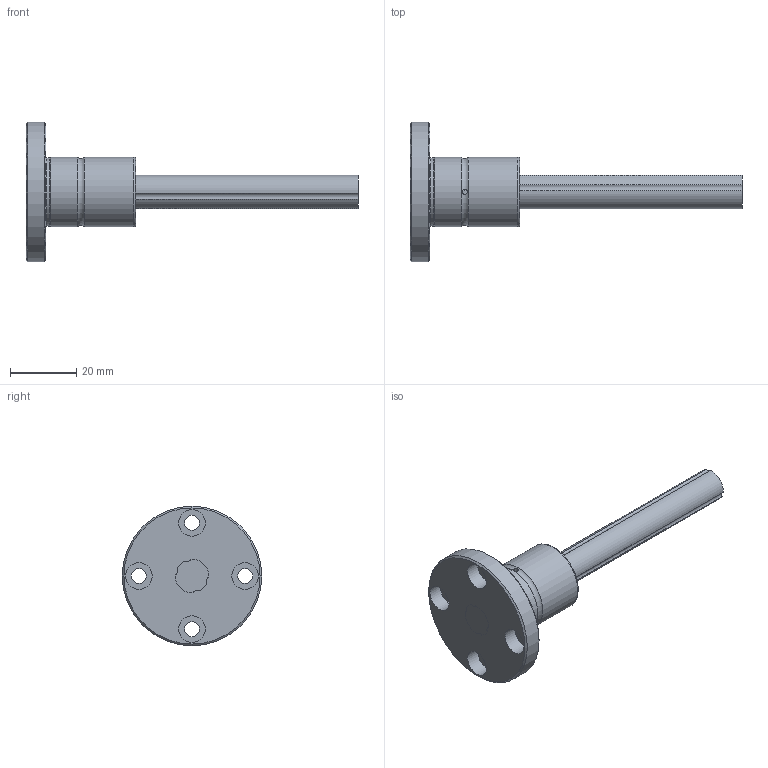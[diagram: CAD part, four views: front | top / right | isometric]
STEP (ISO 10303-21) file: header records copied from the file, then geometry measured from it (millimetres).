
FILE_DESCRIPTION(/* description */ ('STEP AP214'),/* implementation_level */ '2;1');
FILE_NAME(/* name */ 'LF101100(00)',/* time_stamp */ '2024-09-05T14:33:37+02:00',/* author */ ('License CC BY-ND 4.0'),/* organization */ ('CADENAS'),/* preprocessor_version */ 'ST-DEVELOPER v19.3',/* originating_system */ 'PARTsolutions',/* authorisation */ ' ');
FILE_SCHEMA (('AUTOMOTIVE_DESIGN {1 0 10303 214 3 1 1}'));
Length unit declared in the file: millimetre
Products named in the file (3): LF101100(00); LF 10100 FTLFShaft; LF 10 FTLF Cylindar
Assembly tree (2 placements, depth 2):
  LF101100(00)
    LF 10100 FTLFShaft
    LF 10 FTLF Cylindar
Bounding box: 100 x 42 x 42 mm (x, y, z)
Volume: 21664.4 mm3; surface area: 10010.2 mm2
Topology: 2 solids, 2 shells, 45 faces, 113 edges, 74 vertices
Faces by surface type: cylinder 30, plane 9, torus 4, cone 2
Full cylindrical faces by diameter (mm): 1.5 x2, 4.5 x4, 8 x4, 20.7 x1, 21 x2, 42 x1
Entity records: 1333 total; most frequent: CARTESIAN_POINT 242, DIRECTION 234, ORIENTED_EDGE 168, AXIS2_PLACEMENT_3D 108, EDGE_CURVE 84, EDGE_LOOP 82, FACE_BOUND 82, VERTEX_POINT 66
